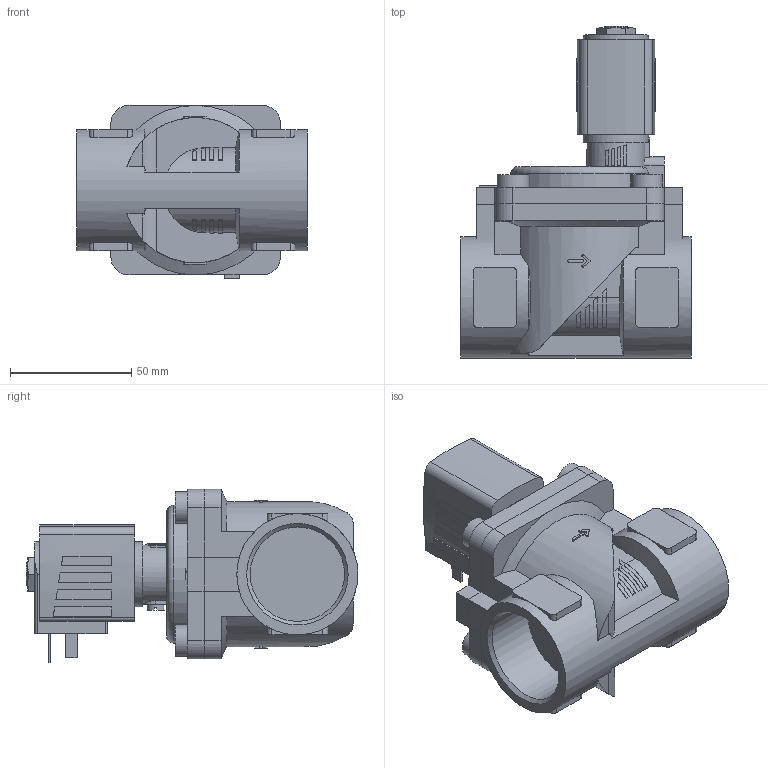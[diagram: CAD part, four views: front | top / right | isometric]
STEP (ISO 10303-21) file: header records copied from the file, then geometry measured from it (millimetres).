
FILE_DESCRIPTION(/* description */ ('STEP AP214'),/* implementation_level */ '2;1');
FILE_NAME(/* name */ '6281-375380-2_2-Way_Solenoid_Valve__Servo-assisted__General_Purpose',/* time_stamp */ '2024-08-27T16:36:51+02:00',/* author */ ('License CC BY-ND 4.0'),/* organization */ ('CADENAS'),/* preprocessor_version */ 'ST-DEVELOPER v19.3',/* originating_system */ 'PARTsolutions',/* authorisation */ ' ');
FILE_SCHEMA (('AUTOMOTIVE_DESIGN {1 0 10303 214 3 1 1}'));
Length unit declared in the file: millimetre
Products named in the file (4): 6281-375380-2/2-Way Solenoid Valve, Servo-assisted, General Purpose; 5281ev252VA2/2-Wege-Magnetventil mit Servomembran-Deckel  HA15 ; 6213-25G1_1/4VA-Gehaeuse-; AC10ex-5NA38-Plan-Coil
Assembly tree (3 placements, depth 2):
  6281-375380-2/2-Way Solenoid Valve, Servo-assisted, General Purpose
    5281ev252VA2/2-Wege-Magnetventil mit Servomembran-Deckel  HA15 
    6213-25G1_1/4VA-Gehaeuse-
    AC10ex-5NA38-Plan-Coil
Bounding box: 95 x 137 x 71.5 mm (x, y, z)
Volume: 324176 mm3; surface area: 60181.5 mm2
Topology: 3 solids, 3 shells, 351 faces, 903 edges, 596 vertices
Faces by surface type: plane 247, cylinder 86, cone 17, torus 1
Full cylindrical faces by diameter (mm): 2.013 x1, 7 x1, 9.74 x1, 13 x4, 27 x1, 38.952 x2, 50 x1
Entity records: 11969 total; most frequent: CARTESIAN_POINT 2104, DIRECTION 1768, ORIENTED_EDGE 1754, EDGE_CURVE 877, AXIS2_PLACEMENT_3D 611, VERTEX_POINT 587, LINE 546, VECTOR 546
